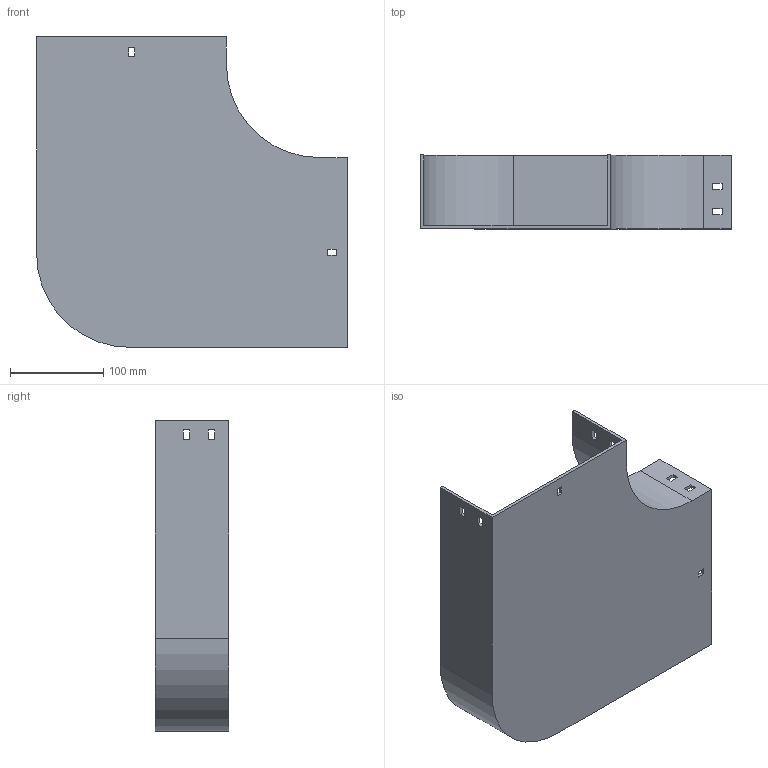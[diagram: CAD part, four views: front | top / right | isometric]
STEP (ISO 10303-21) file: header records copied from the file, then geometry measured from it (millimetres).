
FILE_DESCRIPTION (( 'STEP AP214' ), '1' );
FILE_NAME ('10F1C200.step', '2025-02-21T12:57:32', ( '' ), ( '' ), 'SwSTEP 2.0', 'SolidWorks 2023', '' );
FILE_SCHEMA (( 'AUTOMOTIVE_DESIGN' ));
Length unit declared in the file: millimetre
Products named in the file (1): 10F1C200
Bounding box: 334 x 79 x 334 mm (x, y, z)
Volume: 551467.1 mm3; surface area: 321725.6 mm2
Topology: 1 solids, 1 shells, 58 faces, 168 edges, 112 vertices
Faces by surface type: plane 54, cylinder 4
Entity records: 1943 total; most frequent: CARTESIAN_POINT 339, ORIENTED_EDGE 336, DIRECTION 294, EDGE_CURVE 168, LINE 160, VECTOR 160, VERTEX_POINT 112, EDGE_LOOP 78
